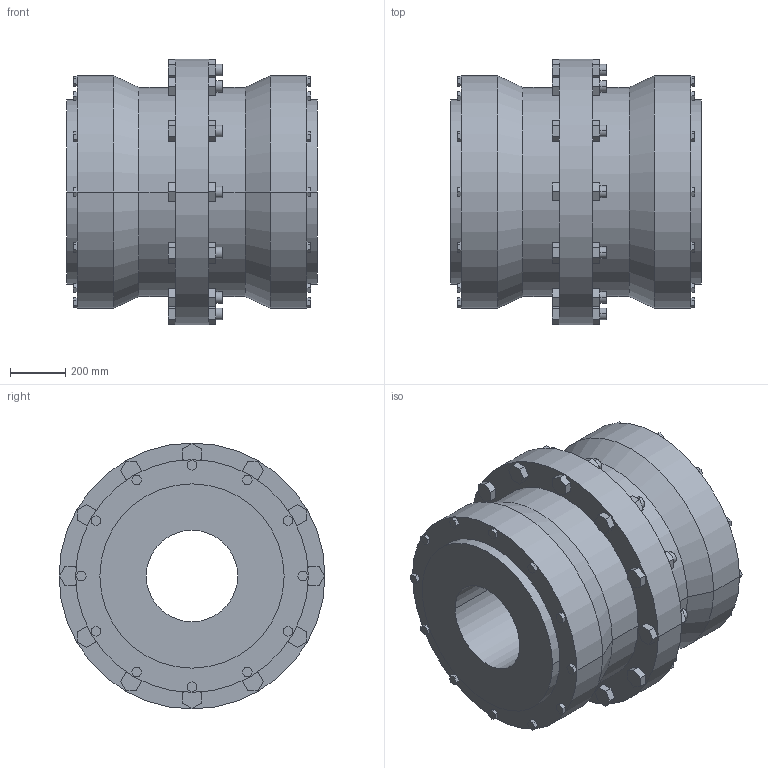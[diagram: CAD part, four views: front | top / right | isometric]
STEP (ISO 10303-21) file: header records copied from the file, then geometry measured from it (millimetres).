
FILE_DESCRIPTION((''),'2;1');
FILE_NAME('A18987600-0_ASM','2018-09-26T',('AB_Roschiwal'),('RENK AG'),'PRO/ENGINEER BY PARAMETRIC TECHNOLOGY CORPORATION, 2015440','PRO/ENGINEER BY PARAMETRIC TECHNOLOGY CORPORATION, 2015440','');
FILE_SCHEMA(('CONFIG_CONTROL_DESIGN'));
Length unit declared in the file: millimetre
Products named in the file (3): SBK400_GEHAEUSE; SBK400_NABE; A18987600-0_ASM
Assembly tree (3 placements, depth 2):
  A18987600-0_ASM
    SBK400_GEHAEUSE
    SBK400_NABE  x2
Bounding box: 905 x 960 x 960 mm (x, y, z)
Volume: 379928835.2 mm3; surface area: 9037691.6 mm2
Topology: 3 solids, 3 shells, 422 faces, 1036 edges, 688 vertices
Faces by surface type: plane 362, cylinder 56, cone 4
Entity records: 12052 total; most frequent: CARTESIAN_POINT 2100, ORIENTED_EDGE 2024, DIRECTION 1940, EDGE_CURVE 1012, VECTOR 916, LINE 916, VERTEX_POINT 672, AXIS2_PLACEMENT_3D 512
